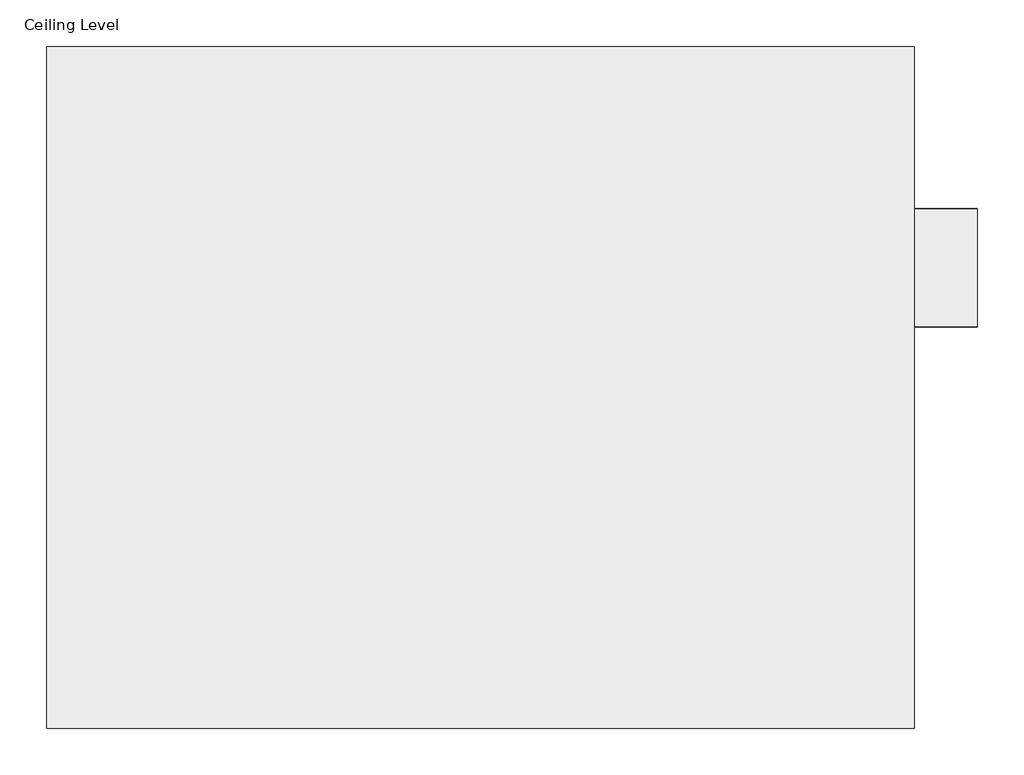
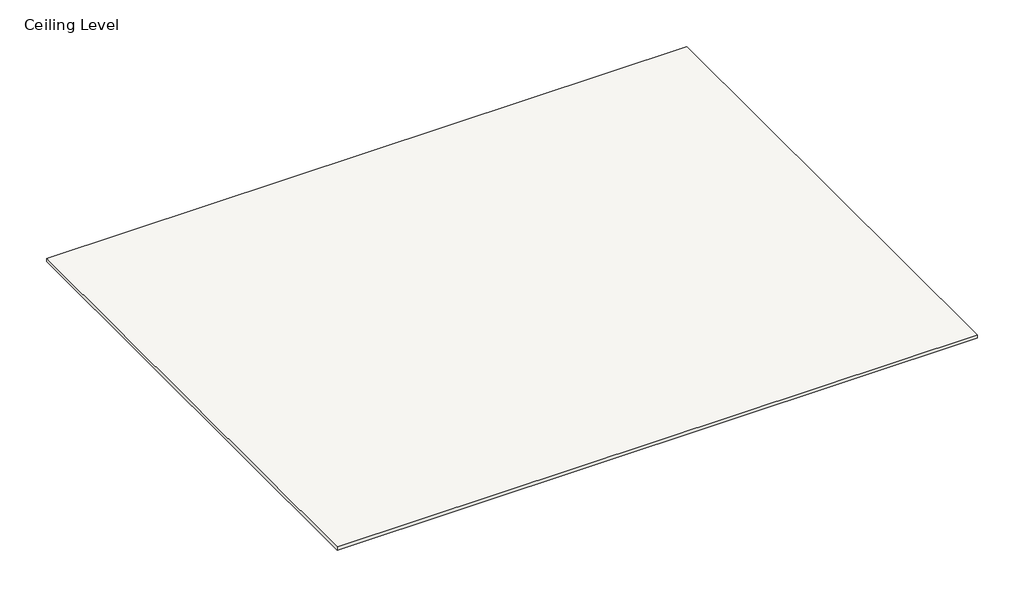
# One storey: 4 coverings.
"""IFC4 building model written with IfcOpenShell, lengths in millimetres."""

from ifc_helpers import new_model, si_unit, frame, origin, place, context, project, spatial, polyline, outline, extrude, element, save

model = new_model("IFC4")

# Units and contexts
model_context = context("Model", 3, world=origin())
ifc_project = project(units=[si_unit("LENGTHUNIT", "METRE", prefix="MILLI")], contexts=[model_context])

# Site, building, storey
site = spatial("IfcSite", under=ifc_project)
building = spatial("IfcBuilding", under=site)
storey = spatial("IfcBuildingStorey", under=building, Name="Ceiling Level", Elevation=0.0)

# Coverings
placement = place(None, origin())
element("IfcCovering", 1, ObjectType="Rockfon MediCare Plus A24 (white) 1200 x 600 x 20 mm", at=placement, inside=storey, context=model_context, shape_type="SweptSolid", body=[
    extrude(outline(polyline([(-7000.9781072, 8795.7122432), (-7000.9781072, 5895.7122432), (-10690.9781072, 5895.7122432), (-10690.9781072, 8795.7122432), (-7000.9781072, 8795.7122432)])), frame((0.0, 0.0, 1.0), z_axis=(0.0, 0.0, 1.0), x_axis=(1.0, 0.0, 0.0)), (0.0, 0.0, 1.0), 20.0),
])
element("IfcCovering", 2, ObjectType="Rockfon MediCare Plus E24 (white) 600 x 600 x 20 mm", at=placement, inside=storey, context=model_context, shape_type="SweptSolid", body=[
    extrude(outline(polyline([(-6733.0033126, 8103.2561563), (-6733.0033126, 7603.2561563), (-7133.0033126, 7603.2561563), (-7133.0033126, 8103.2561563), (-6733.0033126, 8103.2561563)])), frame((0.0, 0.0, -918.5547472), z_axis=(0.0, 0.0, 1.0), x_axis=(1.0, 0.0, 0.0)), (0.0, 0.0, 1.0), 20.0),
])
element("IfcCovering", 3, ObjectType="Rockfon MediCare Plus A24 (white) 600 x 600 x 20 mm", at=placement, inside=storey, context=model_context, shape_type="SweptSolid", body=[
    extrude(outline(polyline([(-6733.0033126, 8104.4604779), (-6733.0033126, 7604.4604779), (-7133.0033126, 7604.4604779), (-7133.0033126, 8104.4604779), (-6733.0033126, 8104.4604779)])), frame((0.0, 0.0, -427.8742307), z_axis=(0.0, 0.0, 1.0), x_axis=(1.0, 0.0, 0.0)), (0.0, 0.0, 1.0), 20.0),
])
element("IfcCovering", 4, ObjectType="Rockfon MediCare Plus X (white) 600 x 600 x 22 mm", at=placement, inside=storey, context=model_context, shape_type="SweptSolid", body=[
    extrude(outline(polyline([(-6733.0033126, 8106.5575892), (-6733.0033126, 7606.5575892), (-7133.0033126, 7606.5575892), (-7133.0033126, 8106.5575892), (-6733.0033126, 8106.5575892)])), frame((0.0, 0.0, -1058.6089735), z_axis=(0.0, 0.0, 1.0), x_axis=(1.0, 0.0, 0.0)), (0.0, 0.0, 1.0), 22.0),
])

save(model, "model.ifc")
